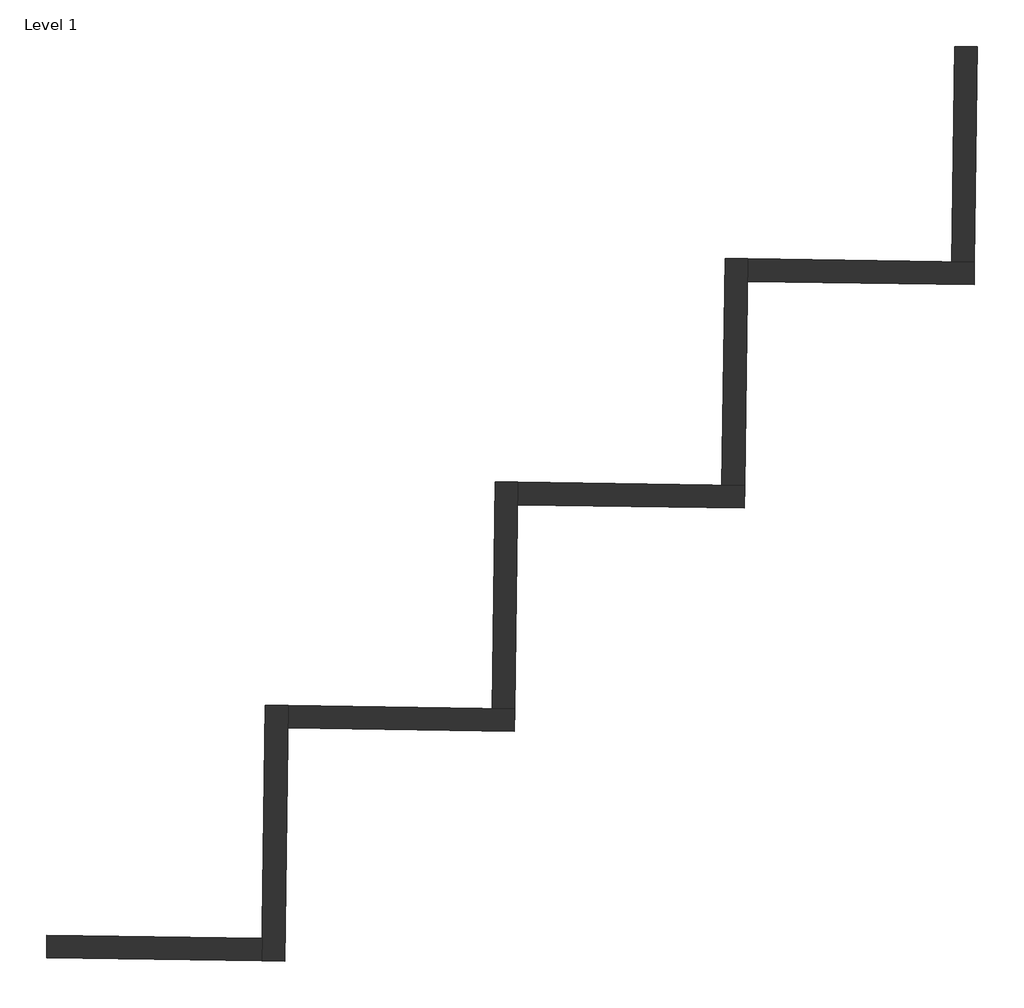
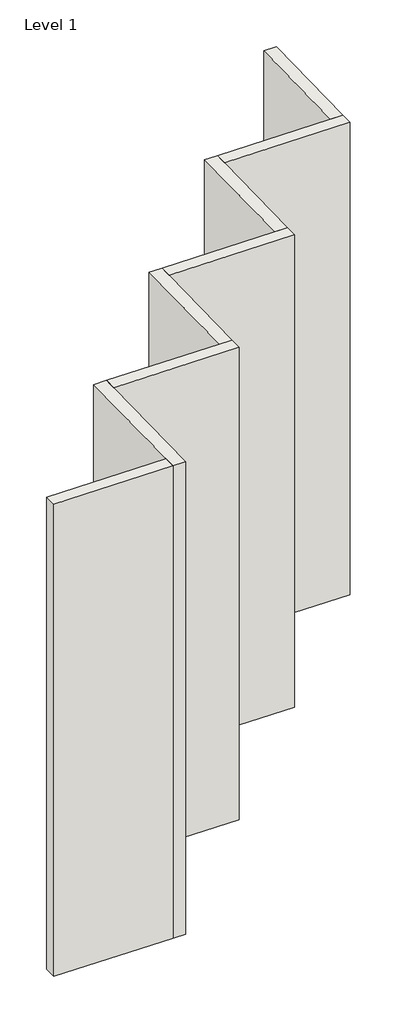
# One storey: 8 walls.
"""IFC4 building model written with IfcOpenShell, lengths in millimetres."""

from ifc_helpers import new_model, si_unit, origin, origin_with_axes, place, context, project, spatial, polyline, outline, extrude, faceted_brep, element, save

model = new_model("IFC4")

# Units and contexts
model_context = context("Model", 3, world=origin())
ifc_project = project(units=[si_unit("LENGTHUNIT", "METRE", prefix="MILLI")], contexts=[model_context])

# Site, building, storey
site = spatial("IfcSite", under=ifc_project)
building = spatial("IfcBuilding", under=site)
storey = spatial("IfcBuildingStorey", under=building, Name="Level 1", Elevation=0.0)

# Walls
placement = place(None, origin())
element("IfcWall", 1, ObjectType="Generic - 200mm", at=placement, inside=storey, context=model_context, shape_type="Brep", body=[
    faceted_brep([(7923.2094425, -17470.1216458, 0.0), (7952.2438346, -15413.0602553, 0.0), (7955.0664534, -15213.0801742, 0.0), (7955.0664534, -15213.0801742, 8000.0), (7952.2438346, -15413.0602553, 8000.0), (7923.2094425, -17470.1216458, 8000.0), (7723.2293614, -17467.299027, 0.0), (7723.2293614, -17467.299027, 8000.0), (7726.0519802, -17267.3189459, 8000.0), (7755.0863723, -15210.2575555, 8000.0), (7755.0863723, -15210.2575555, 0.0), (7726.0519802, -17267.3189459, 0.0)], [[[0, 1, 2, 3, 4, 5]], [[6, 7, 8, 9, 10, 11]], [[2, 1, 0, 6, 11, 10]], [[5, 4, 3, 9, 8, 7]], [[3, 2, 10, 9]], [[0, 5, 7, 6]]]),
])
element("IfcWall", 2, ObjectType="Generic - 200mm", at=placement, inside=storey, context=model_context, shape_type="Brep", body=[
    faceted_brep([(7952.2438346, -15413.0602553, 0.0), (9952.0446453, -15441.286443, 0.0), (9952.0446453, -15441.286443, 8000.0), (7952.2438346, -15413.0602553, 8000.0), (7955.0664534, -15213.0801742, 0.0), (7955.0664534, -15213.0801742, 8000.0), (9754.887183, -15238.4837432, 8000.0), (9954.867264, -15241.3063619, 8000.0), (9954.867264, -15241.3063619, 0.0), (9754.887183, -15238.4837432, 0.0)], [[[0, 1, 2, 3]], [[4, 5, 6, 7, 8, 9]], [[1, 0, 4, 9, 8]], [[3, 2, 7, 6, 5]], [[0, 3, 5, 4]], [[2, 1, 8, 7]]]),
])
element("IfcWall", 3, ObjectType="Generic - 200mm", at=placement, inside=storey, context=model_context, shape_type="Brep", body=[
    faceted_brep([(9954.867264, -15241.3063619, 0.0), (9980.2708329, -13441.4856323, 0.0), (9983.0934517, -13241.5055513, 0.0), (9983.0934517, -13241.5055513, 8000.0), (9980.2708329, -13441.4856323, 8000.0), (9954.867264, -15241.3063619, 8000.0), (9754.887183, -15238.4837432, 0.0), (9754.887183, -15238.4837432, 8000.0), (9783.1133706, -13238.6829325, 8000.0), (9783.1133706, -13238.6829325, 0.0)], [[[0, 1, 2, 3, 4, 5]], [[6, 7, 8, 9]], [[2, 1, 0, 6, 9]], [[5, 4, 3, 8, 7]], [[0, 5, 7, 6]], [[3, 2, 9, 8]]]),
])
element("IfcWall", 4, ObjectType="Generic - 200mm", at=placement, inside=storey, context=model_context, shape_type="Brep", body=[
    faceted_brep([(9980.2708329, -13441.4856323, 0.0), (11980.0716436, -13469.71182, 0.0), (11980.0716436, -13469.71182, 8000.0), (9980.2708329, -13441.4856323, 8000.0), (9983.0934517, -13241.5055513, 0.0), (9983.0934517, -13241.5055513, 8000.0), (11782.9141813, -13266.9091202, 8000.0), (11982.8942624, -13269.731739, 8000.0), (11982.8942624, -13269.731739, 0.0), (11782.9141813, -13266.9091202, 0.0)], [[[0, 1, 2, 3]], [[4, 5, 6, 7, 8, 9]], [[1, 0, 4, 9, 8]], [[3, 2, 7, 6, 5]], [[0, 3, 5, 4]], [[2, 1, 8, 7]]]),
])
element("IfcWall", 5, ObjectType="Generic - 200mm", at=placement, inside=storey, context=model_context, shape_type="Brep", body=[
    faceted_brep([(11982.8942624, -13269.731739, 0.0), (12008.2978313, -11469.9110094, 0.0), (12011.1204501, -11269.9309283, 0.0), (12011.1204501, -11269.9309283, 8000.0), (12008.2978313, -11469.9110094, 8000.0), (11982.8942624, -13269.731739, 8000.0), (11782.9141813, -13266.9091202, 0.0), (11782.9141813, -13266.9091202, 8000.0), (11811.140369, -11267.1083095, 8000.0), (11811.140369, -11267.1083095, 0.0)], [[[0, 1, 2, 3, 4, 5]], [[6, 7, 8, 9]], [[2, 1, 0, 6, 9]], [[5, 4, 3, 8, 7]], [[0, 5, 7, 6]], [[3, 2, 9, 8]]]),
])
element("IfcWall", 6, ObjectType="Generic - 200mm", at=placement, inside=storey, context=model_context, shape_type="Brep", body=[
    faceted_brep([(12008.2978313, -11469.9110094, 0.0), (14008.098642, -11498.137197, 0.0), (14008.098642, -11498.137197, 8000.0), (12008.2978313, -11469.9110094, 8000.0), (12011.1204501, -11269.9309283, 0.0), (12011.1204501, -11269.9309283, 8000.0), (13810.9411797, -11295.3344972, 8000.0), (14010.9212607, -11298.157116, 8000.0), (14010.9212607, -11298.157116, 0.0), (13810.9411797, -11295.3344972, 0.0)], [[[0, 1, 2, 3]], [[4, 5, 6, 7, 8, 9]], [[1, 0, 4, 9, 8]], [[3, 2, 7, 6, 5]], [[0, 3, 5, 4]], [[2, 1, 8, 7]]]),
])
element("IfcWall", 7, ObjectType="Generic - 200mm", at=placement, inside=storey, context=model_context, shape_type="SweptSolid", body=[
    extrude(outline(polyline([(14037.736139, -9398.3463459), (14010.9212607, -11298.157116), (13810.9411797, -11295.3344972), (13837.756058, -9395.5237271), (14037.736139, -9398.3463459)])), origin_with_axes(), (0.0, 0.0, 1.0), 8000.0),
])
element("IfcWall", 8, ObjectType="Generic - 200mm", at=placement, inside=storey, context=model_context, shape_type="SweptSolid", body=[
    extrude(outline(polyline([(7723.2293614, -17467.299027), (5823.4185913, -17440.4841487), (5826.2412101, -17240.5040676), (7726.0519802, -17267.3189459), (7723.2293614, -17467.299027)])), origin_with_axes(), (0.0, 0.0, 1.0), 8000.0),
])

save(model, "model.ifc")
